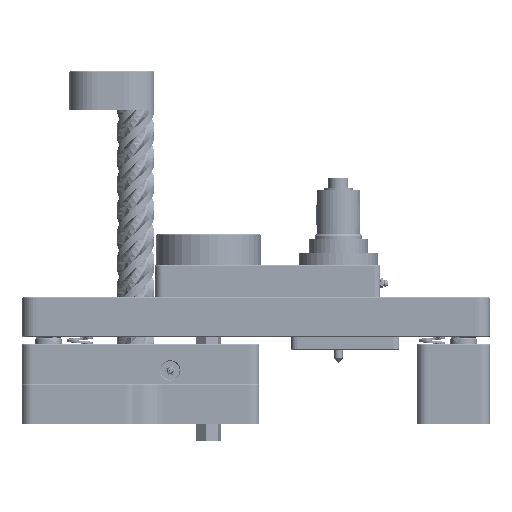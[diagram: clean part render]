
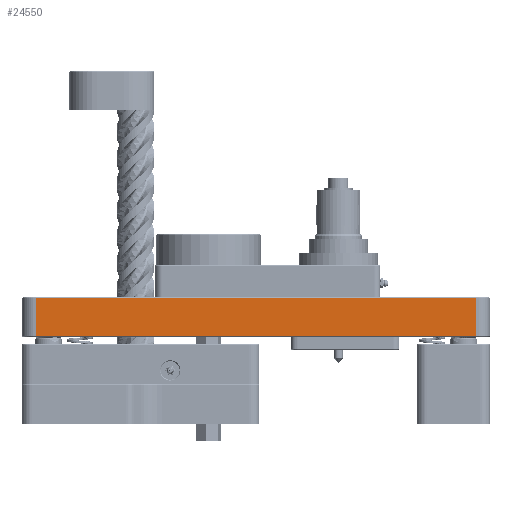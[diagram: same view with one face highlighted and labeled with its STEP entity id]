
A CAD part, front view. The second image highlights one B-rep face of the part: STEP entity #24550.
In plain terms, the highlighted planar face has unit normal (0, -1, 0) as drawn and (0, 1, 0) by its records, which use the part's own axes.
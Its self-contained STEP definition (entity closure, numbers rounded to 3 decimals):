
#1274=LINE('',#85010,#2164);
#1275=LINE('',#85013,#2165);
#1276=LINE('',#85015,#2166);
#1277=LINE('',#85017,#2167);
#2164=VECTOR('',#30279,1000.);
#2165=VECTOR('',#30280,1000.);
#2166=VECTOR('',#30281,1000.);
#2167=VECTOR('',#30282,1000.);
#2781=PLANE('',#26344);
#6964=ORIENTED_EDGE('',*,*,#9986,.T.);
#6965=ORIENTED_EDGE('',*,*,#9987,.T.);
#6966=ORIENTED_EDGE('',*,*,#9988,.T.);
#6967=ORIENTED_EDGE('',*,*,#9989,.T.);
#9986=EDGE_CURVE('',#11928,#11929,#1274,.F.);
#9987=EDGE_CURVE('',#11929,#11930,#1275,.F.);
#9988=EDGE_CURVE('',#11930,#11931,#1276,.T.);
#9989=EDGE_CURVE('',#11931,#11928,#1277,.T.);
#11928=VERTEX_POINT('',#85011);
#11929=VERTEX_POINT('',#85012);
#11930=VERTEX_POINT('',#85014);
#11931=VERTEX_POINT('',#85016);
#14412=EDGE_LOOP('',(#6964,#6965,#6966,#6967));
#16241=FACE_BOUND('',#14412,.T.);
#24550=ADVANCED_FACE('',(#16241),#2781,.F.);
#26344=AXIS2_PLACEMENT_3D('',#85009,#30277,#30278);
#30277=DIRECTION('',(0.,-1.,0.));
#30278=DIRECTION('',(1.,0.,0.));
#30279=DIRECTION('',(0.,0.,1.));
#30280=DIRECTION('',(1.,0.,0.));
#30281=DIRECTION('',(0.,0.,1.));
#30282=DIRECTION('',(1.,0.,0.));
#85009=CARTESIAN_POINT('',(231.775,50.8,24.638));
#85010=CARTESIAN_POINT('',(306.794,50.8,24.638));
#85011=CARTESIAN_POINT('',(306.794,50.8,36.544));
#85012=CARTESIAN_POINT('',(306.794,50.8,0.794));
#85013=CARTESIAN_POINT('',(231.775,50.8,0.794));
#85014=CARTESIAN_POINT('',(-105.799,50.8,0.794));
#85015=CARTESIAN_POINT('',(-105.799,50.8,24.638));
#85016=CARTESIAN_POINT('',(-105.799,50.8,36.544));
#85017=CARTESIAN_POINT('',(88.9,50.8,36.544));
